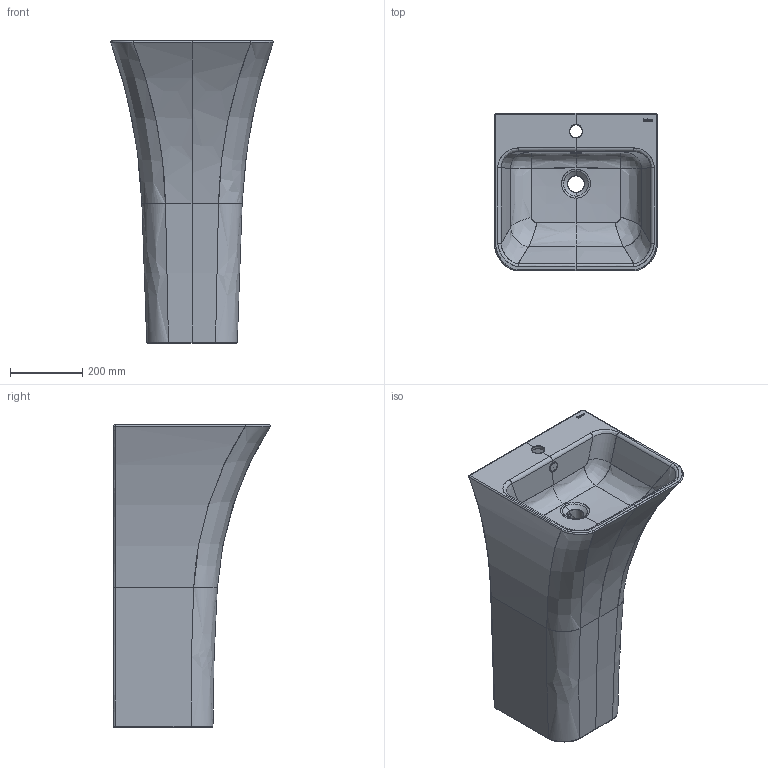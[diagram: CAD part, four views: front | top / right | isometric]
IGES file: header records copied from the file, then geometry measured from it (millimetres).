
Global section: file name: D:\Renovando Conceptos\Trabajos Varios\BathCo\47 Biblioteca Lavabos 3D\4166_CARTES\4166_CARTES.igs; native system: Rhinoceros ( May  7 2021 ); preprocessor: Trout Lake IGES 012 May  7 2021; date: 220628.084058; units: millimetre
Bounding box: 449.12 x 434.2 x 835.3 mm (x, y, z)
Surface area: 2163592.6 mm2 (no closed solid volume)
Topology: 0 solids, 0 shells, 521 faces, 4945 edges, 4925 vertices
Faces by surface type: bspline 521
